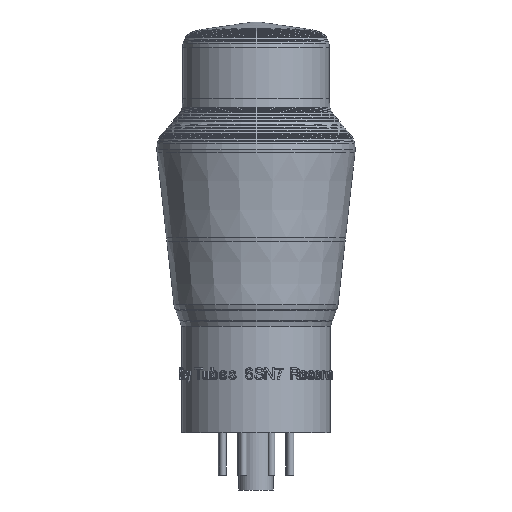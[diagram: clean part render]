
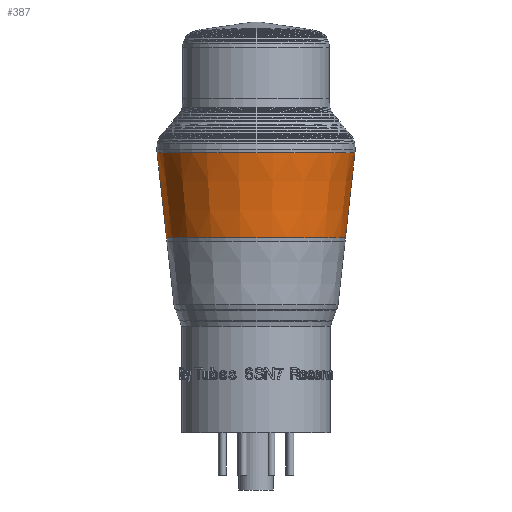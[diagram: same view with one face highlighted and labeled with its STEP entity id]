
A CAD part, front view. The second image highlights one B-rep face of the part: STEP entity #387.
In plain terms, the highlighted conical face has half-angle 6.277 degrees and reference radius 21.046 mm.
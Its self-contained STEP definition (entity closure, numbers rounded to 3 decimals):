
#368 = VERTEX_POINT('',#369);
#369 = CARTESIAN_POINT('',(21.046,0.,55.75));
#375 = EDGE_CURVE('',#368,#368,#376,.T.);
#376 = CIRCLE('',#377,21.046);
#377 = AXIS2_PLACEMENT_3D('',#378,#379,#380);
#378 = CARTESIAN_POINT('',(0.,0.,55.75));
#379 = DIRECTION('',(0.,0.,1.));
#380 = DIRECTION('',(1.,0.,-0.));
#387 = ADVANCED_FACE('',(#388),#407,.T.);
#388 = FACE_BOUND('',#389,.T.);
#389 = EDGE_LOOP('',(#390,#391,#399,#406));
#390 = ORIENTED_EDGE('',*,*,#375,.T.);
#391 = ORIENTED_EDGE('',*,*,#392,.T.);
#392 = EDGE_CURVE('',#368,#393,#395,.T.);
#393 = VERTEX_POINT('',#394);
#394 = CARTESIAN_POINT('',(23.245,0.,75.75));
#395 = LINE('',#396,#397);
#396 = CARTESIAN_POINT('',(21.046,0.,55.75));
#397 = VECTOR('',#398,1.);
#398 = DIRECTION('',(0.109,0.,0.994));
#399 = ORIENTED_EDGE('',*,*,#400,.F.);
#400 = EDGE_CURVE('',#393,#393,#401,.T.);
#401 = CIRCLE('',#402,23.245);
#402 = AXIS2_PLACEMENT_3D('',#403,#404,#405);
#403 = CARTESIAN_POINT('',(0.,0.,75.75));
#404 = DIRECTION('',(0.,0.,1.));
#405 = DIRECTION('',(1.,0.,-0.));
#406 = ORIENTED_EDGE('',*,*,#392,.F.);
#407 = CONICAL_SURFACE('',#408,21.046,0.11);
#408 = AXIS2_PLACEMENT_3D('',#409,#410,#411);
#409 = CARTESIAN_POINT('',(0.,0.,55.75));
#410 = DIRECTION('',(0.,0.,1.));
#411 = DIRECTION('',(1.,0.,-0.));
